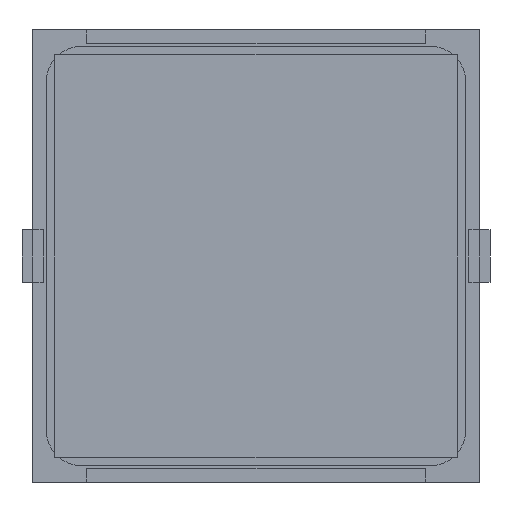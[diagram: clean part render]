
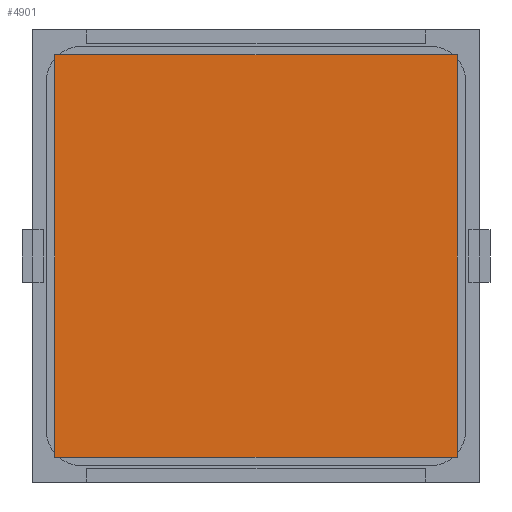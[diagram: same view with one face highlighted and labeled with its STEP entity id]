
A CAD part, front view. The second image highlights one B-rep face of the part: STEP entity #4901.
In plain terms, the highlighted planar face has unit normal (0, -1, 0).
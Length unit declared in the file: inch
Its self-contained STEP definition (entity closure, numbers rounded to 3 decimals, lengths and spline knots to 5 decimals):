
#128 = VERTEX_POINT ( 'NONE', #137 ) ;
#137 = CARTESIAN_POINT ( 'NONE',  ( 0.74803, -0.005, -0.74803 ) ) ;
#282 = EDGE_CURVE ( 'NONE', #1041, #128, #7427, .T. ) ;
#952 = EDGE_CURVE ( 'NONE', #6661, #1041, #5252, .T. ) ;
#984 = CARTESIAN_POINT ( 'NONE',  ( -0.74803, -0.005, -0.74803 ) ) ;
#1041 = VERTEX_POINT ( 'NONE', #4443 ) ;
#1559 = PLANE ( 'NONE',  #10171 ) ;
#2054 = ORIENTED_EDGE ( 'NONE', *, *, #7766, .F. ) ;
#2472 = VECTOR ( 'NONE', #5395, 39.37008 ) ;
#2644 = LINE ( 'NONE', #3602, #2472 ) ;
#2698 = CARTESIAN_POINT ( 'NONE',  ( 0.74803, -0.005, -0.74803 ) ) ;
#2700 = VECTOR ( 'NONE', #6318, 39.37008 ) ;
#3575 = CARTESIAN_POINT ( 'NONE',  ( -0.74803, -0.005, 0.74803 ) ) ;
#3602 = CARTESIAN_POINT ( 'NONE',  ( -0.74803, -0.005, -0.74803 ) ) ;
#4062 = VECTOR ( 'NONE', #10901, 39.37008 ) ;
#4160 = ORIENTED_EDGE ( 'NONE', *, *, #952, .F. ) ;
#4364 = CARTESIAN_POINT ( 'NONE',  ( -0.74803, -0.005, -0.74803 ) ) ;
#4443 = CARTESIAN_POINT ( 'NONE',  ( 0.74803, -0.005, 0.74803 ) ) ;
#4696 = DIRECTION ( 'NONE',  ( 0., 0., 1. ) ) ;
#4901 = ADVANCED_FACE ( 'NONE', ( #7993 ), #1559, .F. ) ;
#5131 = CARTESIAN_POINT ( 'NONE',  ( -0.74803, -0.005, 0.74803 ) ) ;
#5252 = LINE ( 'NONE', #3575, #4062 ) ;
#5395 = DIRECTION ( 'NONE',  ( -1., 0., 0. ) ) ;
#5612 = LINE ( 'NONE', #984, #7150 ) ;
#6080 = ORIENTED_EDGE ( 'NONE', *, *, #282, .F. ) ;
#6141 = CARTESIAN_POINT ( 'NONE',  ( -0.74803, -0.005, 0.74803 ) ) ;
#6194 = ORIENTED_EDGE ( 'NONE', *, *, #7355, .F. ) ;
#6318 = DIRECTION ( 'NONE',  ( 0., 0., -1. ) ) ;
#6661 = VERTEX_POINT ( 'NONE', #5131 ) ;
#7150 = VECTOR ( 'NONE', #4696, 39.37008 ) ;
#7355 = EDGE_CURVE ( 'NONE', #10765, #6661, #5612, .T. ) ;
#7427 = LINE ( 'NONE', #2698, #2700 ) ;
#7766 = EDGE_CURVE ( 'NONE', #128, #10765, #2644, .T. ) ;
#7993 = FACE_OUTER_BOUND ( 'NONE', #9899, .T. ) ;
#8781 = DIRECTION ( 'NONE',  ( 0., 0., 1. ) ) ;
#9022 = DIRECTION ( 'NONE',  ( 0., 1., 0. ) ) ;
#9899 = EDGE_LOOP ( 'NONE', ( #6194, #2054, #6080, #4160 ) ) ;
#10171 = AXIS2_PLACEMENT_3D ( 'NONE', #6141, #9022, #8781 ) ;
#10765 = VERTEX_POINT ( 'NONE', #4364 ) ;
#10901 = DIRECTION ( 'NONE',  ( 1., 0., 0. ) ) ;
